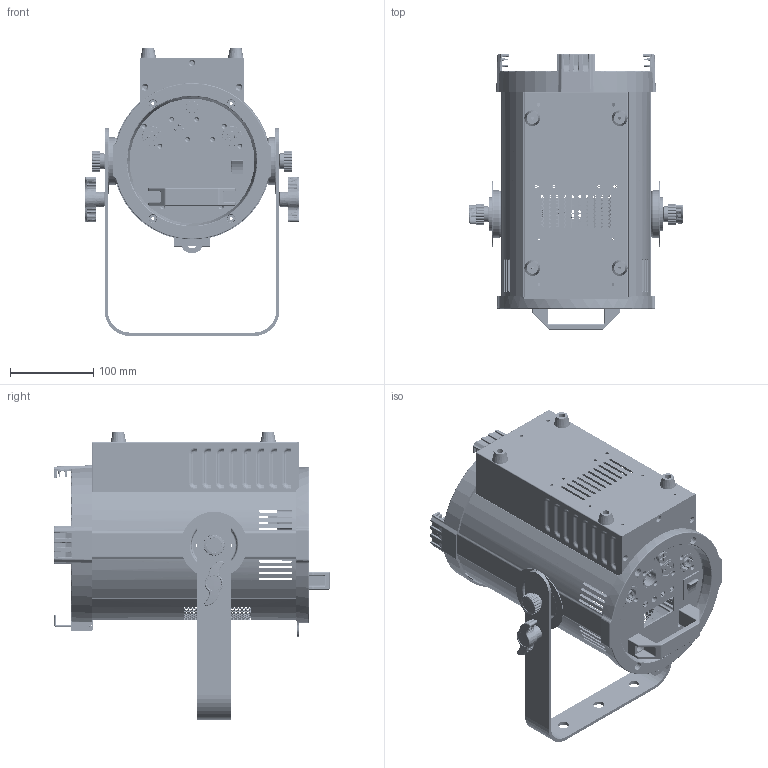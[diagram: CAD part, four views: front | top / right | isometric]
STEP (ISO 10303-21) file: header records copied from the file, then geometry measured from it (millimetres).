
FILE_DESCRIPTION((''),'2;1');
FILE_NAME('100W_ASM','2025-07-07T08:46:29',('ALY'),(''),'CREO PARAMETRIC BY PTC INC, 2022164','CREO PARAMETRIC BY PTC INC, 2022164','');
FILE_SCHEMA(('AUTOMOTIVE_DESIGN { 1 0 10303 214 1 1 1 1 }'));
Products named in the file (23): LV-100; SLV-100; DYH-100; HG-100; HG1-100; BXSZ-A__A__; 112211__; QG-3; TG-100; TB-100; XY-80_S; TS-100; DJ-SL_A_S; TS-90; 11123; FJ-160; NY-S; XN-88; 000; 320001; 0002; 0003; 100W_ASM
Assembly tree (29 placements, depth 2):
  100W_ASM
    LV-100  x2
    SLV-100
    DYH-100
    HG-100
    HG1-100
    BXSZ-A__A__
    112211__
    QG-3
    TG-100
    TB-100
    XY-80_S  x2
    TS-100
    DJ-SL_A_S  x4
    TS-90
    11123
    FJ-160
    NY-S  x2
    XN-88  x2
    000
    320001
    0002
    0003
Bounding box: 257.82 x 331 x 345.7 mm (x, y, z)
Volume: 930212.8 mm3; surface area: 821806.5 mm2
Topology: 29 solids, 31 shells, 9001 faces, 24316 edges, 15226 vertices
Faces by surface type: bspline 3699, plane 2650, cylinder 1613, torus 644, cone 288, sphere 94, extrusion 13
Entity records: 402564 total; most frequent: CARTESIAN_POINT 178722, ORIENTED_EDGE 44528, DIRECTION 31330, EDGE_CURVE 22264, VERTEX_POINT 14055, AXIS2_PLACEMENT_3D 11438, PRESENTATION_STYLE_ASSIGNMENT 9464, EDGE_LOOP 9359
